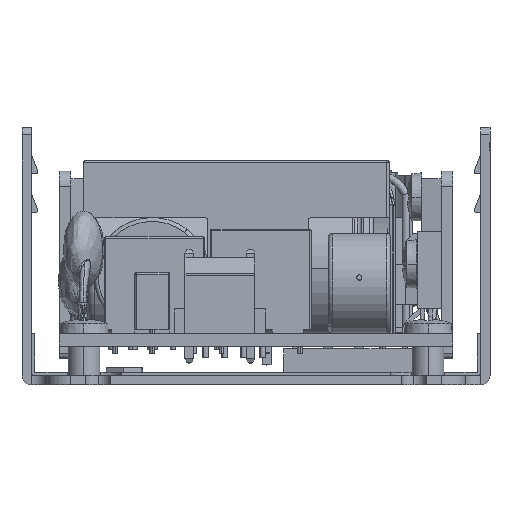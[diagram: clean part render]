
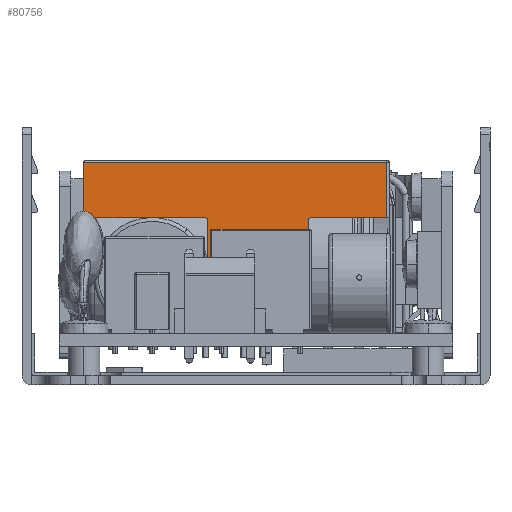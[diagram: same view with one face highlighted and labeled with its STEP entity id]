
A CAD part, left-side view. The second image highlights one B-rep face of the part: STEP entity #80756.
In plain terms, the highlighted planar face has unit normal (-1, 0, 0).
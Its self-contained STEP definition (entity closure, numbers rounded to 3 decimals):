
#24 = CARTESIAN_POINT ( 'NONE',  ( 126.168, -8.389, 3.25 ) ) ;
#1627 = VERTEX_POINT ( 'NONE', #53928 ) ;
#1901 = DIRECTION ( 'NONE',  ( 0., -1., 0. ) ) ;
#3258 = DIRECTION ( 'NONE',  ( 0., -1., 0. ) ) ;
#3505 = LINE ( 'NONE', #5442, #78416 ) ;
#3962 = AXIS2_PLACEMENT_3D ( 'NONE', #40403, #91154, #47657 ) ;
#5316 = DIRECTION ( 'NONE',  ( 0., -1., 0. ) ) ;
#5442 = CARTESIAN_POINT ( 'NONE',  ( 126.168, -8.389, 2.95 ) ) ;
#5619 = VECTOR ( 'NONE', #38869, 1000. ) ;
#7019 = CARTESIAN_POINT ( 'NONE',  ( 126.168, -8.689, 16.55 ) ) ;
#8794 = CARTESIAN_POINT ( 'NONE',  ( 126.168, -18.539, 24. ) ) ;
#8982 = CARTESIAN_POINT ( 'NONE',  ( 126.168, -8.389, 16.55 ) ) ;
#9519 = DIRECTION ( 'NONE',  ( 0., -1., 0. ) ) ;
#9963 = LINE ( 'NONE', #43678, #43935 ) ;
#10288 = LINE ( 'NONE', #8982, #27288 ) ;
#10699 = VECTOR ( 'NONE', #14500, 1000. ) ;
#11005 = DIRECTION ( 'NONE',  ( 0., 1., 0. ) ) ;
#11940 = EDGE_CURVE ( 'NONE', #84060, #85135, #64028, .T. ) ;
#12157 = ORIENTED_EDGE ( 'NONE', *, *, #11940, .T. ) ;
#12641 = AXIS2_PLACEMENT_3D ( 'NONE', #90146, #46677, #3258 ) ;
#12993 = VECTOR ( 'NONE', #9519, 1000. ) ;
#12998 = AXIS2_PLACEMENT_3D ( 'NONE', #88865, #45389, #1901 ) ;
#13355 = CARTESIAN_POINT ( 'NONE',  ( 126.168, 20.211, 3.25 ) ) ;
#14407 = CIRCLE ( 'NONE', #37628, 0.3 ) ;
#14500 = DIRECTION ( 'NONE',  ( 0., 0., -1. ) ) ;
#15049 = LINE ( 'NONE', #89418, #12993 ) ;
#15236 = VERTEX_POINT ( 'NONE', #24 ) ;
#18801 = ORIENTED_EDGE ( 'NONE', *, *, #59945, .T. ) ;
#19718 = VERTEX_POINT ( 'NONE', #13355 ) ;
#21497 = EDGE_CURVE ( 'NONE', #69953, #64972, #47630, .T. ) ;
#23339 = LINE ( 'NONE', #49234, #78927 ) ;
#24811 = ORIENTED_EDGE ( 'NONE', *, *, #71556, .T. ) ;
#27181 = LINE ( 'NONE', #38539, #5619 ) ;
#27288 = VECTOR ( 'NONE', #38100, 1000. ) ;
#27332 = DIRECTION ( 'NONE',  ( 0., 0., 1. ) ) ;
#28408 = CARTESIAN_POINT ( 'NONE',  ( 126.168, -18.539, 23.7 ) ) ;
#28427 = VECTOR ( 'NONE', #5316, 1000. ) ;
#29975 = LINE ( 'NONE', #57873, #10699 ) ;
#31493 = CARTESIAN_POINT ( 'NONE',  ( 126.168, -8.689, 16.25 ) ) ;
#31775 = CARTESIAN_POINT ( 'NONE',  ( 126.168, 20.211, 16.55 ) ) ;
#32450 = CARTESIAN_POINT ( 'NONE',  ( 126.168, 4.311, 2.95 ) ) ;
#33800 = VERTEX_POINT ( 'NONE', #51588 ) ;
#33975 = VECTOR ( 'NONE', #11005, 1000. ) ;
#34974 = ORIENTED_EDGE ( 'NONE', *, *, #69098, .T. ) ;
#35077 = DIRECTION ( 'NONE',  ( 1., 0., 0. ) ) ;
#37583 = ORIENTED_EDGE ( 'NONE', *, *, #47875, .T. ) ;
#37628 = AXIS2_PLACEMENT_3D ( 'NONE', #78515, #35077, #85808 ) ;
#37630 = DIRECTION ( 'NONE',  ( 0., 0., 1. ) ) ;
#38100 = DIRECTION ( 'NONE',  ( 0., -1., 0. ) ) ;
#38539 = CARTESIAN_POINT ( 'NONE',  ( 126.168, 20.211, 2.95 ) ) ;
#38768 = DIRECTION ( 'NONE',  ( 0., -1., 0. ) ) ;
#38840 = EDGE_CURVE ( 'NONE', #85135, #48679, #91882, .T. ) ;
#38869 = DIRECTION ( 'NONE',  ( 0., 0., 1. ) ) ;
#38964 = VERTEX_POINT ( 'NONE', #52119 ) ;
#40403 = CARTESIAN_POINT ( 'NONE',  ( 126.168, -18.839, 13.55 ) ) ;
#43590 = VERTEX_POINT ( 'NONE', #7019 ) ;
#43678 = CARTESIAN_POINT ( 'NONE',  ( 126.168, 4.611, 16.55 ) ) ;
#43935 = VECTOR ( 'NONE', #79811, 1000. ) ;
#44141 = CIRCLE ( 'NONE', #12998, 0.3 ) ;
#44235 = CIRCLE ( 'NONE', #78500, 0.3 ) ;
#45389 = DIRECTION ( 'NONE',  ( -1., 0., 0. ) ) ;
#46677 = DIRECTION ( 'NONE',  ( -1., 0., 0. ) ) ;
#47102 = VERTEX_POINT ( 'NONE', #57896 ) ;
#47630 = LINE ( 'NONE', #85521, #28427 ) ;
#47657 = DIRECTION ( 'NONE',  ( 0., -1., 0. ) ) ;
#47875 = EDGE_CURVE ( 'NONE', #15236, #47102, #3505, .T. ) ;
#48679 = VERTEX_POINT ( 'NONE', #81637 ) ;
#49234 = CARTESIAN_POINT ( 'NONE',  ( 126.168, 4.611, 2.95 ) ) ;
#51588 = CARTESIAN_POINT ( 'NONE',  ( 126.168, 20.661, 3.25 ) ) ;
#52119 = CARTESIAN_POINT ( 'NONE',  ( 126.168, 4.611, 16.25 ) ) ;
#53134 = EDGE_CURVE ( 'NONE', #47102, #43590, #44235, .T. ) ;
#53928 = CARTESIAN_POINT ( 'NONE',  ( 126.168, -8.089, 2.95 ) ) ;
#55489 = EDGE_CURVE ( 'NONE', #33800, #19718, #15049, .T. ) ;
#56544 = ORIENTED_EDGE ( 'NONE', *, *, #80895, .T. ) ;
#57221 = EDGE_CURVE ( 'NONE', #38964, #63978, #9963, .T. ) ;
#57690 = ORIENTED_EDGE ( 'NONE', *, *, #86963, .T. ) ;
#57873 = CARTESIAN_POINT ( 'NONE',  ( 126.168, 20.661, 24. ) ) ;
#57896 = CARTESIAN_POINT ( 'NONE',  ( 126.168, -8.389, 16.25 ) ) ;
#59706 = FACE_OUTER_BOUND ( 'NONE', #74171, .T. ) ;
#59945 = EDGE_CURVE ( 'NONE', #43590, #84060, #10288, .T. ) ;
#61730 = VECTOR ( 'NONE', #37630, 1000. ) ;
#62953 = ORIENTED_EDGE ( 'NONE', *, *, #77212, .T. ) ;
#63978 = VERTEX_POINT ( 'NONE', #87049 ) ;
#64028 = LINE ( 'NONE', #8794, #61730 ) ;
#64972 = VERTEX_POINT ( 'NONE', #77636 ) ;
#68377 = ORIENTED_EDGE ( 'NONE', *, *, #21497, .T. ) ;
#69098 = EDGE_CURVE ( 'NONE', #64972, #38964, #14407, .T. ) ;
#69484 = VERTEX_POINT ( 'NONE', #32450 ) ;
#69953 = VERTEX_POINT ( 'NONE', #31775 ) ;
#71556 = EDGE_CURVE ( 'NONE', #48679, #33800, #29975, .T. ) ;
#71841 = ORIENTED_EDGE ( 'NONE', *, *, #55489, .T. ) ;
#74171 = EDGE_LOOP ( 'NONE', ( #18801, #12157, #80201, #24811, #71841, #62953, #68377, #34974, #77140, #77986, #56544, #57690, #37583, #81116 ) ) ;
#77140 = ORIENTED_EDGE ( 'NONE', *, *, #57221, .T. ) ;
#77212 = EDGE_CURVE ( 'NONE', #19718, #69953, #27181, .T. ) ;
#77636 = CARTESIAN_POINT ( 'NONE',  ( 126.168, 4.911, 16.55 ) ) ;
#77986 = ORIENTED_EDGE ( 'NONE', *, *, #92776, .T. ) ;
#78416 = VECTOR ( 'NONE', #27332, 1000. ) ;
#78500 = AXIS2_PLACEMENT_3D ( 'NONE', #31493, #82163, #38768 ) ;
#78515 = CARTESIAN_POINT ( 'NONE',  ( 126.168, 4.911, 16.25 ) ) ;
#78927 = VECTOR ( 'NONE', #92726, 1000. ) ;
#79306 = CIRCLE ( 'NONE', #12641, 0.3 ) ;
#79811 = DIRECTION ( 'NONE',  ( 0., 0., -1. ) ) ;
#80201 = ORIENTED_EDGE ( 'NONE', *, *, #38840, .T. ) ;
#80756 = ADVANCED_FACE ( 'NONE', ( #59706 ), #83519, .T. ) ;
#80895 = EDGE_CURVE ( 'NONE', #69484, #1627, #23339, .T. ) ;
#81116 = ORIENTED_EDGE ( 'NONE', *, *, #53134, .T. ) ;
#81637 = CARTESIAN_POINT ( 'NONE',  ( 126.168, 20.661, 23.7 ) ) ;
#82163 = DIRECTION ( 'NONE',  ( 1., 0., 0. ) ) ;
#83519 = PLANE ( 'NONE',  #3962 ) ;
#83565 = CARTESIAN_POINT ( 'NONE',  ( 126.168, -18.839, 23.7 ) ) ;
#84060 = VERTEX_POINT ( 'NONE', #84351 ) ;
#84351 = CARTESIAN_POINT ( 'NONE',  ( 126.168, -18.539, 16.55 ) ) ;
#85135 = VERTEX_POINT ( 'NONE', #28408 ) ;
#85521 = CARTESIAN_POINT ( 'NONE',  ( 126.168, 20.211, 16.55 ) ) ;
#85808 = DIRECTION ( 'NONE',  ( 0., -1., 0. ) ) ;
#86963 = EDGE_CURVE ( 'NONE', #1627, #15236, #79306, .T. ) ;
#87049 = CARTESIAN_POINT ( 'NONE',  ( 126.168, 4.611, 3.25 ) ) ;
#88865 = CARTESIAN_POINT ( 'NONE',  ( 126.168, 4.311, 3.25 ) ) ;
#89418 = CARTESIAN_POINT ( 'NONE',  ( 126.168, 20.211, 3.25 ) ) ;
#90146 = CARTESIAN_POINT ( 'NONE',  ( 126.168, -8.089, 3.25 ) ) ;
#91154 = DIRECTION ( 'NONE',  ( -1., 0., 0. ) ) ;
#91882 = LINE ( 'NONE', #83565, #33975 ) ;
#92726 = DIRECTION ( 'NONE',  ( 0., -1., 0. ) ) ;
#92776 = EDGE_CURVE ( 'NONE', #63978, #69484, #44141, .T. ) ;
